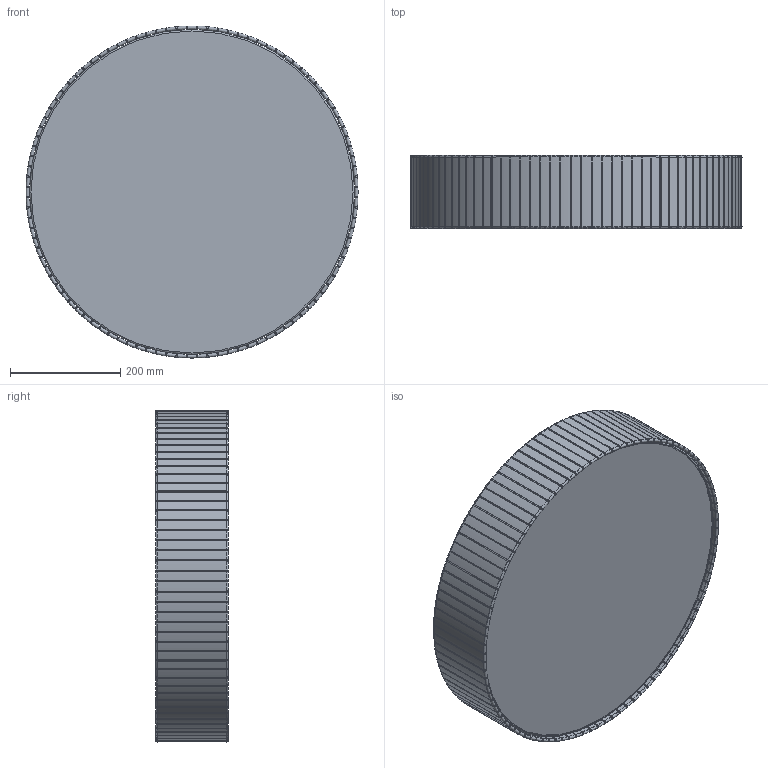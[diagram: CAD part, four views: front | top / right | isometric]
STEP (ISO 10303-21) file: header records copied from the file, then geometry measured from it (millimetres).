
FILE_DESCRIPTION (( 'STEP AP203' ), '1' );
FILE_NAME ('PLTES060POXXXXX-PER 3D.STEP', '2025-06-25T10:27:59', ( '' ), ( '' ), 'SwSTEP 2.0', 'SolidWorks 2024', '' );
FILE_SCHEMA (( 'CONFIG_CONTROL_DESIGN' ));
Length unit declared in the file: millimetre
Products named in the file (4): TSPTESSYP60DWBC; PLTES060POXXXXX-PER 3D; PSPPLTESSY60H13PON-01; RIVESTIMENTO PONGÈ PARALUME Ø600
Assembly tree (102 placements, depth 3):
  PLTES060POXXXXX-PER 3D
    PSPPLTESSY60H13PON-01
      RIVESTIMENTO PONGÈ PARALUME Ø600  x100
    TSPTESSYP60DWBC
Bounding box: 601.96 x 132 x 601.96 mm (x, y, z)
Volume: 562770.4 mm3; surface area: 1741005.1 mm2
Topology: 101 solids, 101 shells, 1016 faces, 2430 edges, 1616 vertices
Faces by surface type: torus 412, cylinder 400, plane 202, cone 2
Entity records: 4296 total; most frequent: DIRECTION 362, LOCAL_TIME 224, CALENDAR_DATE 224, DATE_AND_TIME 224, COORDINATED_UNIVERSAL_TIME_OFFSET 224, CARTESIAN_POINT 218, AXIS2_PLACEMENT_3D 176, PERSON_AND_ORGANIZATION 134
